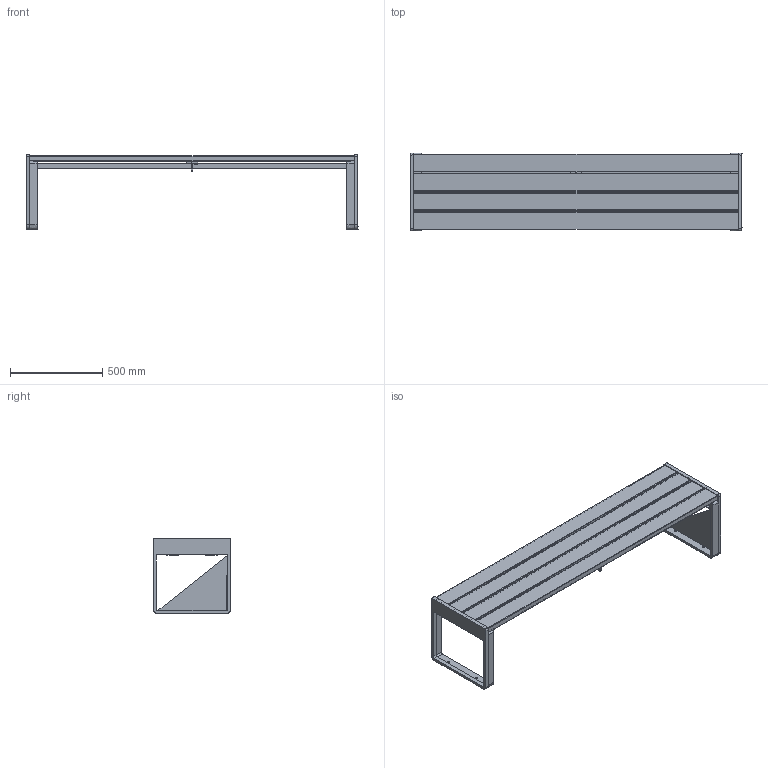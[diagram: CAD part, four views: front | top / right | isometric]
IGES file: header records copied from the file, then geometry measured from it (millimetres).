
Global section: file name: 02フラットベンチFB32-18,35HAutoCAD 20; native system: 25 - 日本語 (Japanese); preprocessor: Autodesk Translation Framework DWG producer (atf_dwg_producer); organization: unknown; date: 20250107.173422; units: millimetre
Bounding box: 1800 x 421.8 x 407.22 mm (x, y, z)
Volume: 25654603.8 mm3; surface area: 6494088.4 mm2
Topology: 71 solids, 71 shells, 1288 faces, 3164 edges, 1962 vertices
Faces by surface type: bspline 1288
